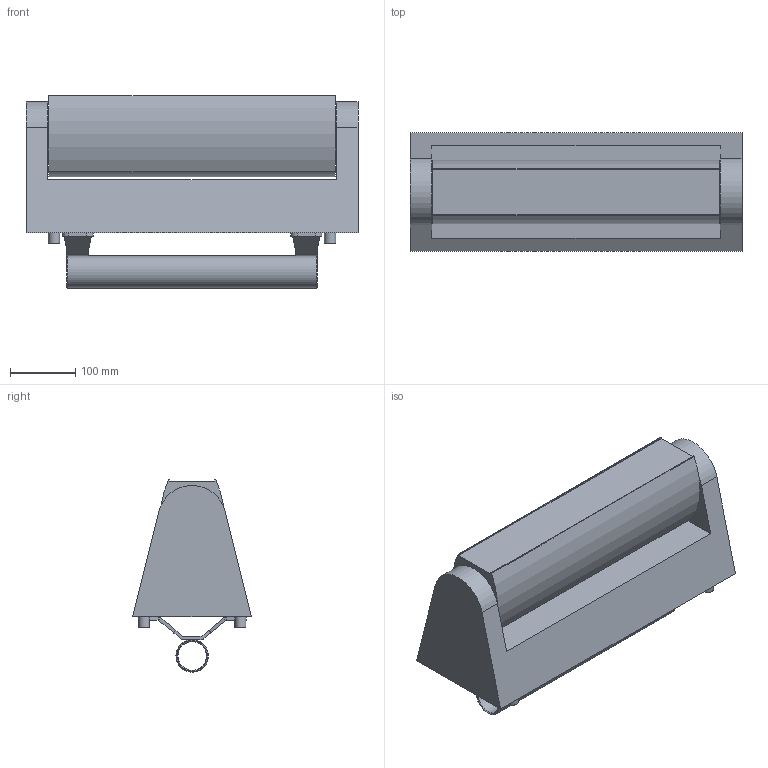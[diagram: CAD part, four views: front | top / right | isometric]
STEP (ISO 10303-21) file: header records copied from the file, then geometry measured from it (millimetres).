
FILE_DESCRIPTION( ( '' ), '1' );
FILE_NAME( 'K:/ROBE-LED/36 Robin MovingLine/03 CycFX 4/05 3D_2D/3D_CycFX4_Bar_00.stp', '2014-04-07T12:20:50', ( 'Ing.Rostislav Hába' ), ( 'ROBE lighting' ), 'PSStep 16.0.42', 'Siemens-SolidEdge', ' ' );
FILE_SCHEMA( ( 'AUTOMOTIVE_DESIGN { 1 0 10303 214 1 1 1 1 }' ) );
Length unit declared in the file: millimetre
Products named in the file (6): 11030616 Mounting Bar 4 sv; 19030296 Trubka 50x L385; 11014555-01 Závěs Al; Assem1; Base CycFX; Head CycFx4
Assembly tree (6 placements, depth 3):
  Assem1
    Base CycFX
    Head CycFx4
    11030616 Mounting Bar 4 sv
      19030296 Trubka 50x L385
      11014555-01 Závěs Al  x2
Bounding box: 510 x 182.54 x 295.59 mm (x, y, z)
Volume: 13286076.3 mm3; surface area: 747748.6 mm2
Topology: 5 solids, 5 shells, 137 faces, 326 edges, 209 vertices
Faces by surface type: plane 69, cylinder 56, bspline 8, cone 4
Full cylindrical faces by diameter (mm): 11 x4, 13 x4, 17.158 x4, 26 x2, 44 x1, 48 x1, 50 x1
Entity records: 3390 total; most frequent: CARTESIAN_POINT 501, DIRECTION 444, ORIENTED_EDGE 372, EDGE_CURVE 186, AXIS2_PLACEMENT_3D 169, EDGE_LOOP 130, VERTEX_POINT 130, FACE_OUTER_BOUND 108
